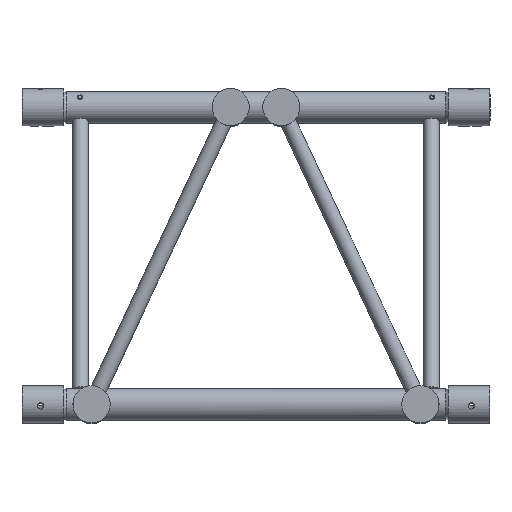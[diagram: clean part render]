
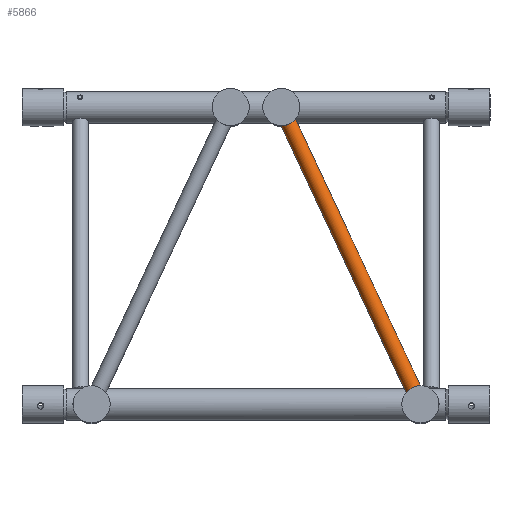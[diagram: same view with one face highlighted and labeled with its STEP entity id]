
A CAD part, top view. The second image highlights one B-rep face of the part: STEP entity #5866.
In plain terms, the highlighted cylindrical face has radius 12.5 mm (diameter 25 mm), a full revolution.
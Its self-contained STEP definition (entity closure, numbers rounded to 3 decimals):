
#515=CIRCLE('',#6182,12.5);
#516=CIRCLE('',#6184,12.5);
#590=CIRCLE('',#6384,12.5);
#591=CIRCLE('',#6386,12.5);
#821=FACE_BOUND('',#1789,.T.);
#962=B_SPLINE_CURVE_WITH_KNOTS('',3,(#8599,#8600,#8601,#8602,#8603,#8604),
 .UNSPECIFIED.,.F.,.F.,(4,2,4),(1.801,1.922,2.043),
 .UNSPECIFIED.);
#991=B_SPLINE_CURVE_WITH_KNOTS('',3,(#9232,#9233,#9234,#9235,#9236,#9237,
#9238,#9239,#9240,#9241,#9242,#9243,#9244,#9245,#9246,#9247,#9248,#9249,
#9250,#9251),.UNSPECIFIED.,.F.,.F.,(4,2,2,2,2,2,2,2,2,4),(2.057,
2.114,2.463,2.812,3.129,3.447,
3.815,4.184,4.537,4.638),
 .UNSPECIFIED.);
#1044=B_SPLINE_CURVE_WITH_KNOTS('',3,(#10445,#10446,#10447,#10448,#10449,
#10450),.UNSPECIFIED.,.F.,.F.,(4,2,4),(1.801,1.922,
2.043),.UNSPECIFIED.);
#1045=B_SPLINE_CURVE_WITH_KNOTS('',3,(#10454,#10455,#10456,#10457,#10458,
#10459),.UNSPECIFIED.,.F.,.F.,(4,2,4),(5.645,5.766,
5.887),.UNSPECIFIED.);
#1203=CYLINDRICAL_SURFACE('',#6385,12.5);
#1377=FACE_OUTER_BOUND('',#1788,.T.);
#1788=EDGE_LOOP('',(#4236,#4237,#4238,#4239));
#1789=EDGE_LOOP('',(#4240,#4241,#4242,#4243));
#2299=VERTEX_POINT('',#8595);
#2301=VERTEX_POINT('',#8598);
#2332=VERTEX_POINT('',#8847);
#2333=VERTEX_POINT('',#8849);
#2543=VERTEX_POINT('',#10443);
#2544=VERTEX_POINT('',#10444);
#2545=VERTEX_POINT('',#10451);
#2546=VERTEX_POINT('',#10453);
#2888=EDGE_CURVE('',#2301,#2299,#962,.T.);
#2929=EDGE_CURVE('',#2332,#2301,#515,.T.);
#2931=EDGE_CURVE('',#2299,#2333,#516,.T.);
#3003=EDGE_CURVE('',#2332,#2333,#991,.T.);
#3203=EDGE_CURVE('',#2543,#2544,#1044,.T.);
#3205=EDGE_CURVE('',#2546,#2545,#1045,.T.);
#3210=EDGE_CURVE('',#2545,#2543,#590,.T.);
#3211=EDGE_CURVE('',#2544,#2546,#591,.T.);
#4236=ORIENTED_EDGE('',*,*,#2888,.T.);
#4237=ORIENTED_EDGE('',*,*,#2931,.T.);
#4238=ORIENTED_EDGE('',*,*,#3003,.F.);
#4239=ORIENTED_EDGE('',*,*,#2929,.T.);
#4240=ORIENTED_EDGE('',*,*,#3205,.T.);
#4241=ORIENTED_EDGE('',*,*,#3210,.T.);
#4242=ORIENTED_EDGE('',*,*,#3203,.T.);
#4243=ORIENTED_EDGE('',*,*,#3211,.T.);
#5866=ADVANCED_FACE('',(#1377,#821),#1203,.T.);
#6182=AXIS2_PLACEMENT_3D('',#8848,#6970,#6971);
#6184=AXIS2_PLACEMENT_3D('',#8851,#6974,#6975);
#6384=AXIS2_PLACEMENT_3D('',#10469,#7457,#7458);
#6385=AXIS2_PLACEMENT_3D('',#10470,#7459,#7460);
#6386=AXIS2_PLACEMENT_3D('',#10471,#7461,#7462);
#6970=DIRECTION('center_axis',(-0.424,0.906,0.));
#6971=DIRECTION('ref_axis',(-0.906,-0.424,0.));
#6974=DIRECTION('center_axis',(-0.424,0.906,0.));
#6975=DIRECTION('ref_axis',(-0.906,-0.424,0.));
#7457=DIRECTION('center_axis',(0.424,-0.906,0.));
#7458=DIRECTION('ref_axis',(-0.906,-0.424,0.));
#7459=DIRECTION('center_axis',(-0.424,0.906,0.));
#7460=DIRECTION('ref_axis',(-0.906,-0.424,0.));
#7461=DIRECTION('center_axis',(0.424,-0.906,0.));
#7462=DIRECTION('ref_axis',(-0.906,-0.424,0.));
#8595=CARTESIAN_POINT('',(620.523,23.134,289.94));
#8598=CARTESIAN_POINT('',(618.305,22.096,289.94));
#8599=CARTESIAN_POINT('Ctrl Pts',(618.305,22.096,289.94));
#8600=CARTESIAN_POINT('Ctrl Pts',(618.669,22.289,289.98));
#8601=CARTESIAN_POINT('Ctrl Pts',(619.036,22.471,290.));
#8602=CARTESIAN_POINT('Ctrl Pts',(619.767,22.813,290.));
#8603=CARTESIAN_POINT('Ctrl Pts',(620.142,22.978,289.98));
#8604=CARTESIAN_POINT('Ctrl Pts',(620.523,23.134,289.94));
#8847=CARTESIAN_POINT('',(608.103,17.321,278.028));
#8848=CARTESIAN_POINT('Origin',(619.414,22.615,277.5));
#8849=CARTESIAN_POINT('',(623.11,24.345,265.685));
#8851=CARTESIAN_POINT('Origin',(619.414,22.615,277.5));
#9232=CARTESIAN_POINT('Ctrl Pts',(608.103,17.321,278.028));
#9233=CARTESIAN_POINT('Ctrl Pts',(608.038,17.448,277.905));
#9234=CARTESIAN_POINT('Ctrl Pts',(607.975,17.575,277.781));
#9235=CARTESIAN_POINT('Ctrl Pts',(607.539,18.478,276.875));
#9236=CARTESIAN_POINT('Ctrl Pts',(607.228,19.295,275.945));
#9237=CARTESIAN_POINT('Ctrl Pts',(606.991,20.779,273.956));
#9238=CARTESIAN_POINT('Ctrl Pts',(607.072,21.448,272.894));
#9239=CARTESIAN_POINT('Ctrl Pts',(607.637,22.471,271.005));
#9240=CARTESIAN_POINT('Ctrl Pts',(608.119,22.905,270.058));
#9241=CARTESIAN_POINT('Ctrl Pts',(609.458,23.575,268.369));
#9242=CARTESIAN_POINT('Ctrl Pts',(610.311,23.816,267.627));
#9243=CARTESIAN_POINT('Ctrl Pts',(612.205,24.178,266.397));
#9244=CARTESIAN_POINT('Ctrl Pts',(613.42,24.307,265.856));
#9245=CARTESIAN_POINT('Ctrl Pts',(615.97,24.465,265.158));
#9246=CARTESIAN_POINT('Ctrl Pts',(617.305,24.495,265.));
#9247=CARTESIAN_POINT('Ctrl Pts',(619.712,24.495,265.));
#9248=CARTESIAN_POINT('Ctrl Pts',(620.919,24.468,265.138));
#9249=CARTESIAN_POINT('Ctrl Pts',(622.442,24.389,265.494));
#9250=CARTESIAN_POINT('Ctrl Pts',(622.778,24.369,265.584));
#9251=CARTESIAN_POINT('Ctrl Pts',(623.11,24.345,265.685));
#10443=CARTESIAN_POINT('',(421.695,447.903,289.94));
#10444=CARTESIAN_POINT('',(419.477,446.865,289.94));
#10445=CARTESIAN_POINT('Ctrl Pts',(421.695,447.903,289.94));
#10446=CARTESIAN_POINT('Ctrl Pts',(421.331,447.71,289.98));
#10447=CARTESIAN_POINT('Ctrl Pts',(420.964,447.528,290.));
#10448=CARTESIAN_POINT('Ctrl Pts',(420.233,447.185,290.));
#10449=CARTESIAN_POINT('Ctrl Pts',(419.858,447.021,289.98));
#10450=CARTESIAN_POINT('Ctrl Pts',(419.477,446.865,289.94));
#10451=CARTESIAN_POINT('',(421.695,447.903,265.06));
#10453=CARTESIAN_POINT('',(419.477,446.865,265.06));
#10454=CARTESIAN_POINT('Ctrl Pts',(419.477,446.865,265.06));
#10455=CARTESIAN_POINT('Ctrl Pts',(419.858,447.021,265.02));
#10456=CARTESIAN_POINT('Ctrl Pts',(420.233,447.185,265.));
#10457=CARTESIAN_POINT('Ctrl Pts',(420.964,447.528,265.));
#10458=CARTESIAN_POINT('Ctrl Pts',(421.331,447.71,265.02));
#10459=CARTESIAN_POINT('Ctrl Pts',(421.695,447.903,265.06));
#10469=CARTESIAN_POINT('Origin',(420.586,447.384,277.5));
#10470=CARTESIAN_POINT('Origin',(520.,234.999,277.5));
#10471=CARTESIAN_POINT('Origin',(420.586,447.384,277.5));
